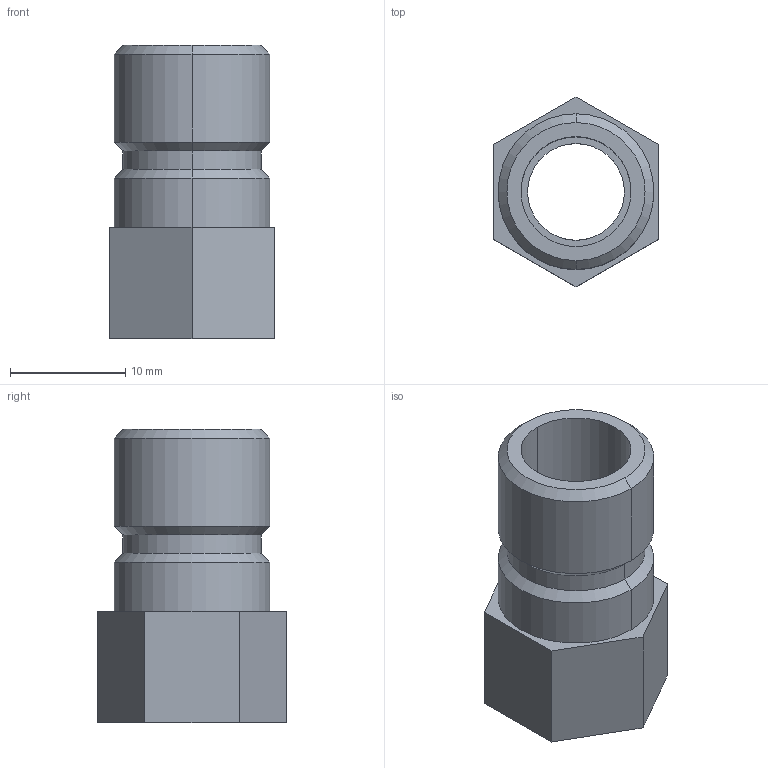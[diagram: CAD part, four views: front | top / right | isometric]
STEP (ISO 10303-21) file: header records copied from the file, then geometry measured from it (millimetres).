
FILE_DESCRIPTION (( 'STEP AP203' ), '1' );
FILE_NAME ('351F-BSPT.step', '2020-08-19T03:57:22', ( 'Microsoft Corporation' ), ( 'MS' ), 'SwSTEP 2.0', 'SolidWorks 2018', '' );
FILE_SCHEMA (( 'CONFIG_CONTROL_DESIGN' ));
Length unit declared in the file: millimetre
Products named in the file (1): 351F-BSPT
Bounding box: 14.22 x 16.42 x 25.4 mm (x, y, z)
Volume: 2148.5 mm3; surface area: 2108.4 mm2
Topology: 1 solids, 1 shells, 26 faces, 56 edges, 34 vertices
Faces by surface type: plane 10, cone 8, cylinder 8
Entity records: 783 total; most frequent: DIRECTION 132, CARTESIAN_POINT 117, ORIENTED_EDGE 112, EDGE_CURVE 56, AXIS2_PLACEMENT_3D 49, VECTOR 34, LINE 34, VERTEX_POINT 34
